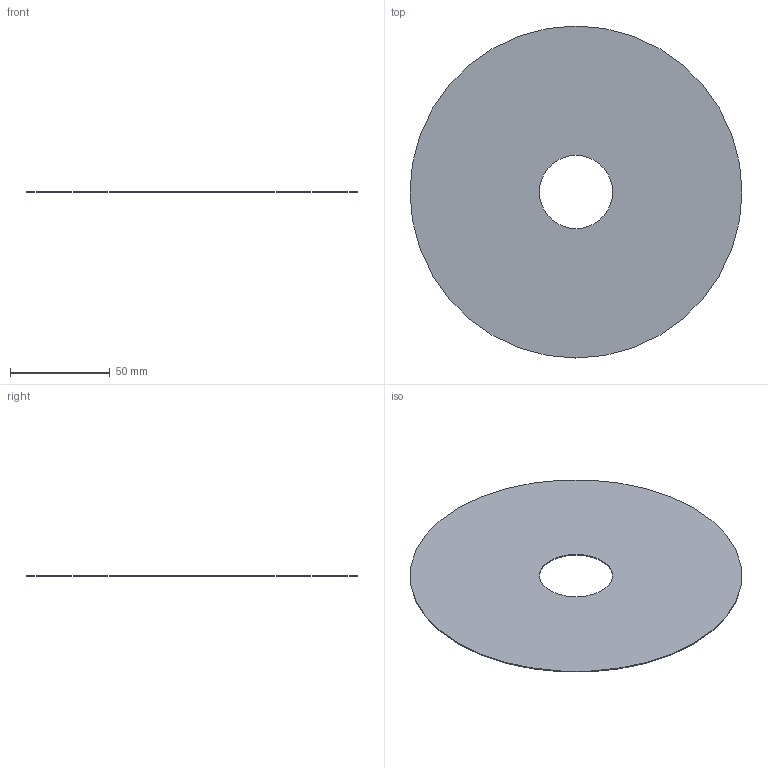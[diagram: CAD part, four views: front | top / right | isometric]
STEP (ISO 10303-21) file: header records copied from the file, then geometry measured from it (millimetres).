
FILE_DESCRIPTION(('Open CASCADE Model'),'2;1');
FILE_NAME('Open CASCADE Shape Model','2026-10-04T01:02:34',('Author'),( 'Open CASCADE'),'Open CASCADE STEP processor 8.0','Open CASCADE 8.0' ,'Unknown');
FILE_SCHEMA(('AUTOMOTIVE_DESIGN { 1 0 10303 214 1 1 1 1 }'));
Length unit declared in the file: millimetre
Products named in the file (1): Open CASCADE STEP translator 8.0 366
Bounding box: 166 x 166 x 0.5 mm (x, y, z)
Volume: 10295.2 mm3; surface area: 41498.9 mm2
Topology: 1 solids, 1 shells, 4 faces, 6 edges, 4 vertices
Faces by surface type: cylinder 2, plane 2
Full cylindrical faces by diameter (mm): 36.6 x1, 166 x1
Entity records: 186 total; most frequent: DIRECTION 32, CARTESIAN_POINT 27, ORIENTED_EDGE 12, PCURVE 12, DEFINITIONAL_REPRESENTATION 12, LINE 10, VECTOR 10, AXIS2_PLACEMENT_3D 9
